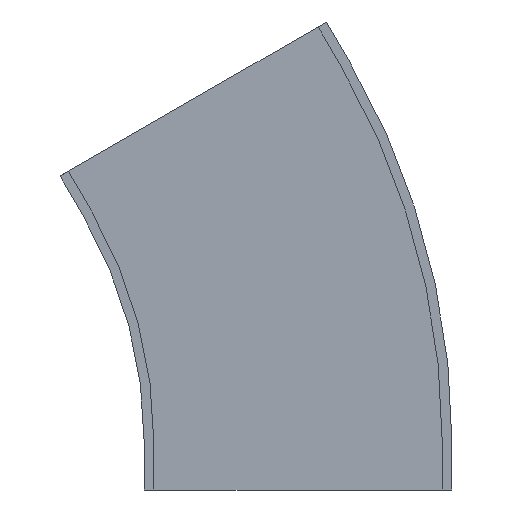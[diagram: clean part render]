
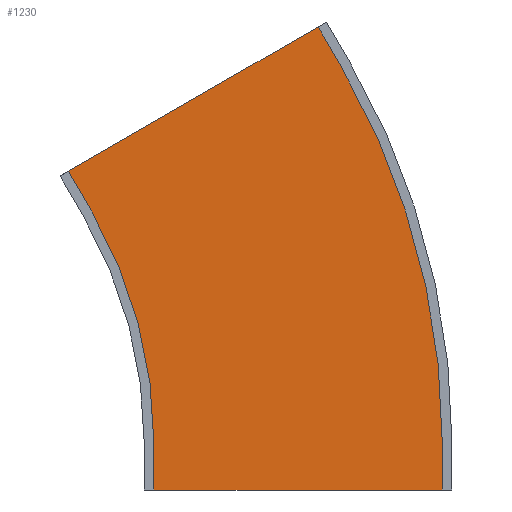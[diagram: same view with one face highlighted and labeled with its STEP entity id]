
A CAD part, front view. The second image highlights one B-rep face of the part: STEP entity #1230.
In plain terms, the highlighted planar face has unit normal (0, -1, 0).
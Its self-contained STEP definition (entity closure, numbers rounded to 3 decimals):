
#166 = VERTEX_POINT ( 'NONE', #311 ) ;
#173 = VERTEX_POINT ( 'NONE', #400 ) ;
#176 = VERTEX_POINT ( 'NONE', #397 ) ;
#177 = VERTEX_POINT ( 'NONE', #319 ) ;
#178 = VERTEX_POINT ( 'NONE', #320 ) ;
#179 = VERTEX_POINT ( 'NONE', #321 ) ;
#180 = VERTEX_POINT ( 'NONE', #322 ) ;
#183 = VERTEX_POINT ( 'NONE', #392 ) ;
#311 = CARTESIAN_POINT ( 'NONE',  ( 1584.8, -68., 0. ) ) ;
#319 = CARTESIAN_POINT ( 'NONE',  ( 975.2, -68., -100. ) ) ;
#320 = CARTESIAN_POINT ( 'NONE',  ( 1322.477, -68., 879.003 ) ) ;
#321 = CARTESIAN_POINT ( 'NONE',  ( 1372.477, -68., 792.4 ) ) ;
#322 = CARTESIAN_POINT ( 'NONE',  ( 794.548, -68., 574.203 ) ) ;
#392 = CARTESIAN_POINT ( 'NONE',  ( 1584.8, -68., -100. ) ) ;
#397 = CARTESIAN_POINT ( 'NONE',  ( 975.2, -68., 0. ) ) ;
#400 = CARTESIAN_POINT ( 'NONE',  ( 844.548, -68., 487.6 ) ) ;
#494 = LINE ( 'NONE', #1297, #500 ) ;
#496 = LINE ( 'NONE', #1295, #498 ) ;
#497 = LINE ( 'NONE', #1296, #504 ) ;
#498 = VECTOR ( 'NONE', #1293, 1000. ) ;
#499 = LINE ( 'NONE', #1303, #502 ) ;
#500 = VECTOR ( 'NONE', #1302, 1000. ) ;
#502 = VECTOR ( 'NONE', #1305, 1000. ) ;
#503 = LINE ( 'NONE', #1307, #506 ) ;
#504 = VECTOR ( 'NONE', #1306, 1000. ) ;
#505 = LINE ( 'NONE', #1309, #508 ) ;
#506 = VECTOR ( 'NONE', #1308, 1000. ) ;
#507 = CIRCLE ( 'NONE', #914, 1584.8 ) ;
#508 = VECTOR ( 'NONE', #1310, 1000. ) ;
#531 = CIRCLE ( 'NONE', #916, 975.2 ) ;
#789 = EDGE_CURVE ( 'NONE', #183, #166, #496, .T. ) ;
#790 = EDGE_CURVE ( 'NONE', #183, #177, #494, .T. ) ;
#791 = EDGE_CURVE ( 'NONE', #177, #176, #499, .T. ) ;
#792 = EDGE_CURVE ( 'NONE', #180, #173, #497, .T. ) ;
#793 = EDGE_CURVE ( 'NONE', #180, #178, #503, .T. ) ;
#794 = EDGE_CURVE ( 'NONE', #178, #179, #505, .T. ) ;
#795 = EDGE_CURVE ( 'NONE', #179, #166, #507, .T. ) ;
#808 = EDGE_CURVE ( 'NONE', #173, #176, #531, .T. ) ;
#914 = AXIS2_PLACEMENT_3D ( 'NONE', #1313, #1314, #1315 ) ;
#916 = AXIS2_PLACEMENT_3D ( 'NONE', #1341, #1342, #1343 ) ;
#937 = ORIENTED_EDGE ( 'NONE', *, *, #793, .F. ) ;
#938 = ORIENTED_EDGE ( 'NONE', *, *, #808, .T. ) ;
#941 = ORIENTED_EDGE ( 'NONE', *, *, #792, .T. ) ;
#944 = ORIENTED_EDGE ( 'NONE', *, *, #794, .F. ) ;
#945 = ORIENTED_EDGE ( 'NONE', *, *, #795, .F. ) ;
#992 = ORIENTED_EDGE ( 'NONE', *, *, #791, .F. ) ;
#997 = ORIENTED_EDGE ( 'NONE', *, *, #790, .F. ) ;
#1022 = EDGE_LOOP ( 'NONE', ( #945, #944, #937, #941, #938, #992, #997, #1067 ) ) ;
#1067 = ORIENTED_EDGE ( 'NONE', *, *, #789, .T. ) ;
#1230 = ADVANCED_FACE ( 'NONE', ( #1744 ), #1801, .F. ) ;
#1293 = DIRECTION ( 'NONE',  ( 0., 0., 1. ) ) ;
#1295 = CARTESIAN_POINT ( 'NONE',  ( 1584.8, -68., -100. ) ) ;
#1296 = CARTESIAN_POINT ( 'NONE',  ( 794.548, -68., 574.203 ) ) ;
#1297 = CARTESIAN_POINT ( 'NONE',  ( 0., -68., -100. ) ) ;
#1302 = DIRECTION ( 'NONE',  ( -1., 0., 0. ) ) ;
#1303 = CARTESIAN_POINT ( 'NONE',  ( 975.2, -68., -100. ) ) ;
#1305 = DIRECTION ( 'NONE',  ( 0., 0., 1. ) ) ;
#1306 = DIRECTION ( 'NONE',  ( 0.5, 0., -0.866 ) ) ;
#1307 = CARTESIAN_POINT ( 'NONE',  ( -50., -68., 86.603 ) ) ;
#1308 = DIRECTION ( 'NONE',  ( 0.866, 0., 0.5 ) ) ;
#1309 = CARTESIAN_POINT ( 'NONE',  ( 1322.477, -68., 879.003 ) ) ;
#1310 = DIRECTION ( 'NONE',  ( 0.5, 0., -0.866 ) ) ;
#1313 = CARTESIAN_POINT ( 'NONE',  ( 0., -68., 0. ) ) ;
#1314 = DIRECTION ( 'NONE',  ( 0., 1., 0. ) ) ;
#1315 = DIRECTION ( 'NONE',  ( -1., 0., 0. ) ) ;
#1341 = CARTESIAN_POINT ( 'NONE',  ( 0., -68., 0. ) ) ;
#1342 = DIRECTION ( 'NONE',  ( 0., 1., 0. ) ) ;
#1343 = DIRECTION ( 'NONE',  ( -1., 0., 0. ) ) ;
#1744 = FACE_OUTER_BOUND ( 'NONE', #1022, .T. ) ;
#1799 = CARTESIAN_POINT ( 'NONE',  ( 844.548, -68., 487.6 ) ) ;
#1801 = PLANE ( 'NONE',  #1909 ) ;
#1803 = DIRECTION ( 'NONE',  ( 0., 1., 0. ) ) ;
#1804 = DIRECTION ( 'NONE',  ( -1., 0., 0. ) ) ;
#1909 = AXIS2_PLACEMENT_3D ( 'NONE', #1799, #1803, #1804 ) ;
